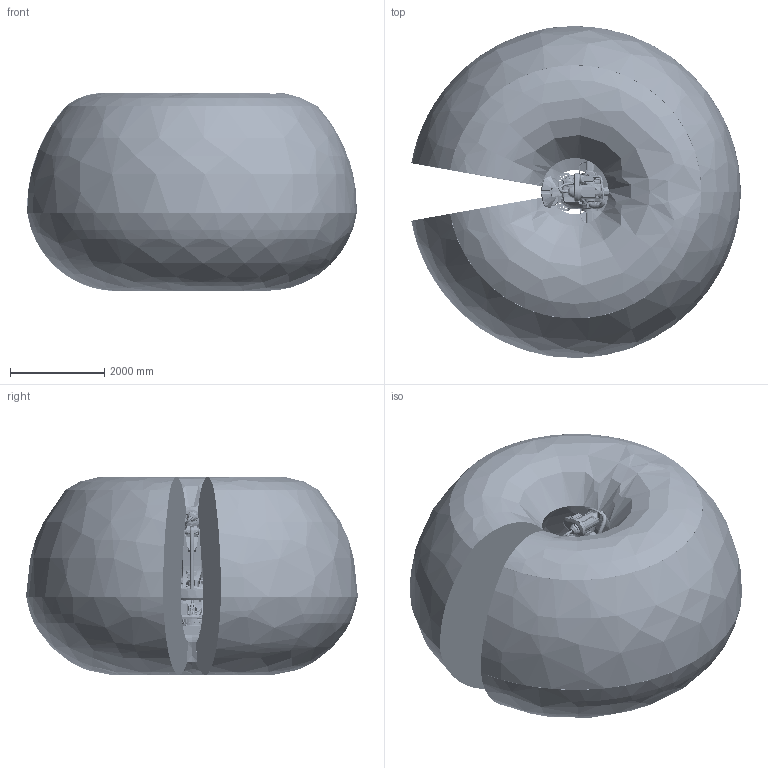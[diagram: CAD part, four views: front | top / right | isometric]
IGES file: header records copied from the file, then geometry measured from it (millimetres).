
Start section: SolidWorks IGES file using analytic representation for surfaces
Global section: file name: C:\Users\SEJAOLS6\OneDrive - ABB\Documents\SAP\7710\7710_Lightweight_models\IRB7710-LID-MH_280kg-350_OC_01_SW_J\IRB7710-LID-MH_280kg-350_OC_01_IGES_J\IRB7710-LID-MH_280kg-350_OC_01_ASM_CAD.igs; native system: SolidWorks 2024; preprocessor: SolidWorks 2024; author: SEJAOLS6; date: 260126.155919; units: millimetre
Bounding box: 6995.68 x 7047.14 x 4198.61 mm (x, y, z)
Surface area: 185466139.3 mm2 (no closed solid volume)
Topology: 0 solids, 0 shells, 10476 faces, 180164 edges, 180020 vertices
Faces by surface type: bspline 5892, revolution 4584
